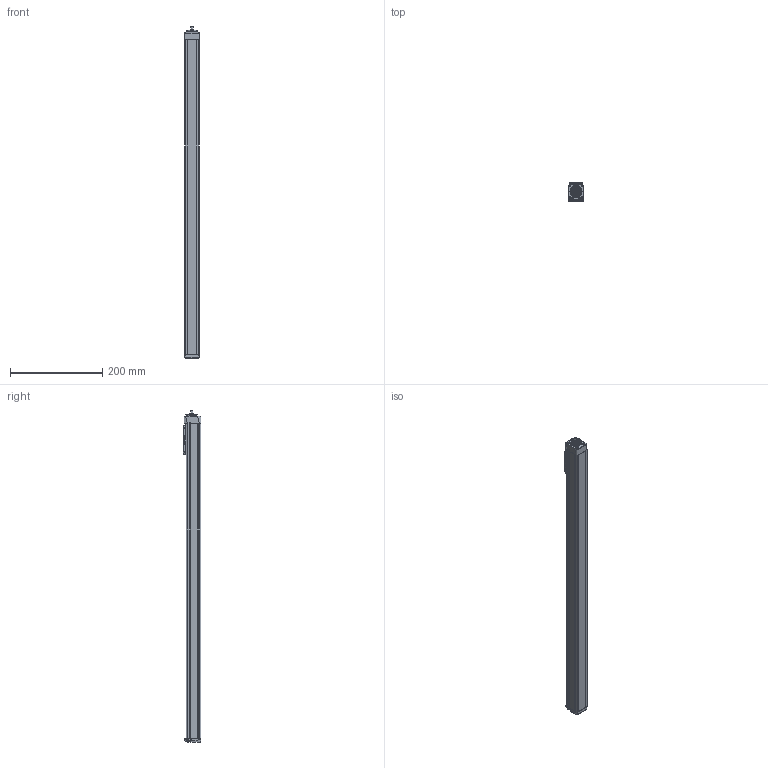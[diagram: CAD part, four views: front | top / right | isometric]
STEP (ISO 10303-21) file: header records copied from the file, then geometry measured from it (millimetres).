
FILE_DESCRIPTION(/* description */ ('STEP AP214'),/* implementation_level */ '2;1');
FILE_NAME(/* name */ 'MGBS 32 0802 600(0)',/* time_stamp */ '2023-04-12T10:46:02+02:00',/* author */ ('License CC BY-ND 4.0'),/* organization */ ('CADENAS'),/* preprocessor_version */ 'ST-DEVELOPER v19.3',/* originating_system */ 'PARTsolutions',/* authorisation */ ' ');
FILE_SCHEMA (('AUTOMOTIVE_DESIGN {1 0 10303 214 3 1 1}'));
Length unit declared in the file: millimetre
Products named in the file (6): MGBS 32 0802 600(0); MGBS 32 600_protection_strip; MGBS 32_carriage; MGBS 32_end_block; MGBS 32 600_profile; MGBS 32_drive_block
Assembly tree (5 placements, depth 2):
  MGBS 32 0802 600(0)
    MGBS 32 600_protection_strip
    MGBS 32_carriage
    MGBS 32_end_block
    MGBS 32 600_profile
    MGBS 32_drive_block
Bounding box: 32 x 38.5 x 719.5 mm (x, y, z)
Volume: 668420.4 mm3; surface area: 164168.2 mm2
Topology: 5 solids, 5 shells, 638 faces, 1686 edges, 1092 vertices
Faces by surface type: plane 301, cylinder 160, cone 94, bspline 56, torus 25, sphere 2
Full cylindrical faces by diameter (mm): 0.3 x1, 1.567 x4, 1.755 x4, 1.8 x2, 2 x2, 2.3 x4, 2.459 x8, 2.46 x4, 2.5 x11, 3 x1, 3.8 x4, 4.5 x6, 5 x5, 7.5 x1, 8 x1, 10 x1, 13.84 x1, 14.2 x1, 17.8 x1, 18.16 x1, 19.5 x1, 25 x2, 25.7 x1
Entity records: 23436 total; most frequent: CARTESIAN_POINT 4050, DIRECTION 3216, ORIENTED_EDGE 2990, EDGE_CURVE 1495, AXIS2_PLACEMENT_3D 1173, VERTEX_POINT 1077, LINE 870, VECTOR 870
